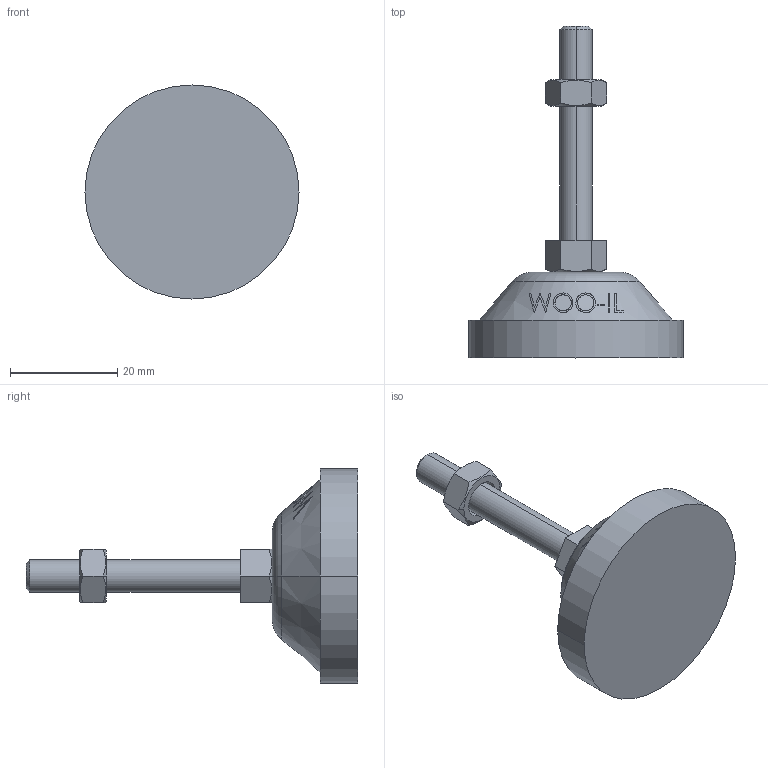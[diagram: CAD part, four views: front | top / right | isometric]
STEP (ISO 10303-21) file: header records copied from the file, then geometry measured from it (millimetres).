
FILE_DESCRIPTION (( 'STEP AP214' ), '1' );
FILE_NAME ('RL40-M6-40.step', '2021-01-06T08:15:39', ( '' ), ( '' ), 'SwSTEP 2.0', 'SolidWorks 2019', '' );
FILE_SCHEMA (( 'AUTOMOTIVE_DESIGN' ));
Length unit declared in the file: millimetre
Products named in the file (1): RL40-M6-40
Bounding box: 40 x 62 x 40 mm (x, y, z)
Volume: 16553.5 mm3; surface area: 5238.9 mm2
Topology: 3 solids, 3 shells, 93 faces, 217 edges, 140 vertices
Faces by surface type: plane 47, cone 22, bspline 16, cylinder 6, torus 2
Entity records: 4025 total; most frequent: CARTESIAN_POINT 1993, ORIENTED_EDGE 434, DIRECTION 349, EDGE_CURVE 217, VERTEX_POINT 140, AXIS2_PLACEMENT_3D 134, EDGE_LOOP 105, ADVANCED_FACE 93
